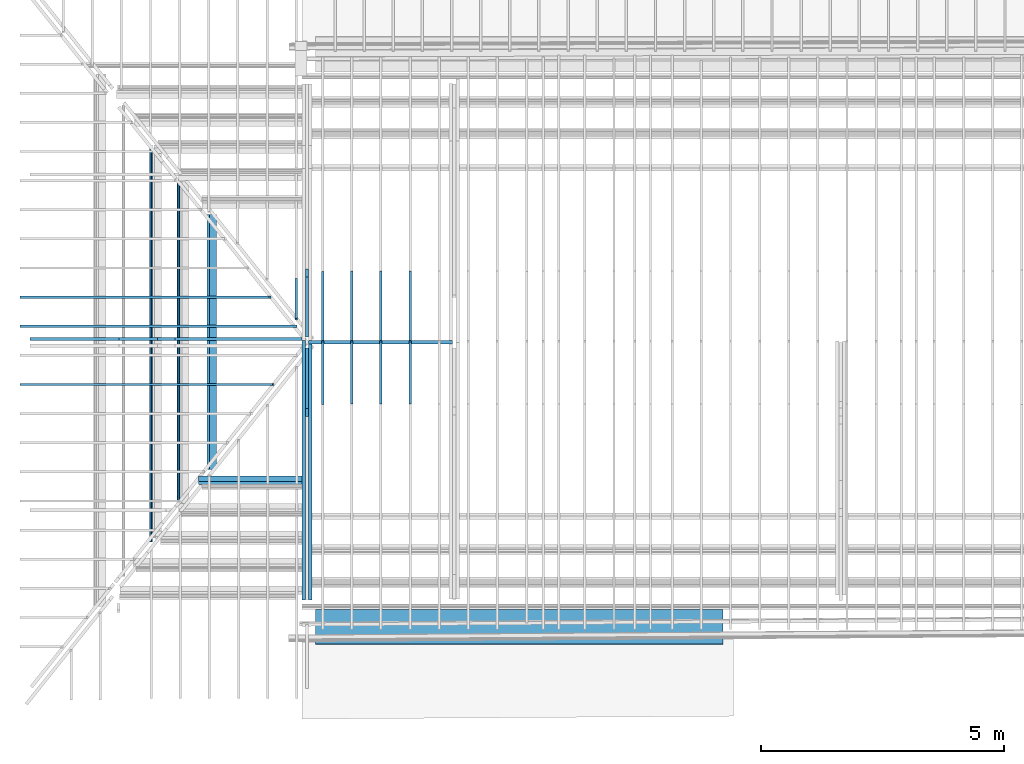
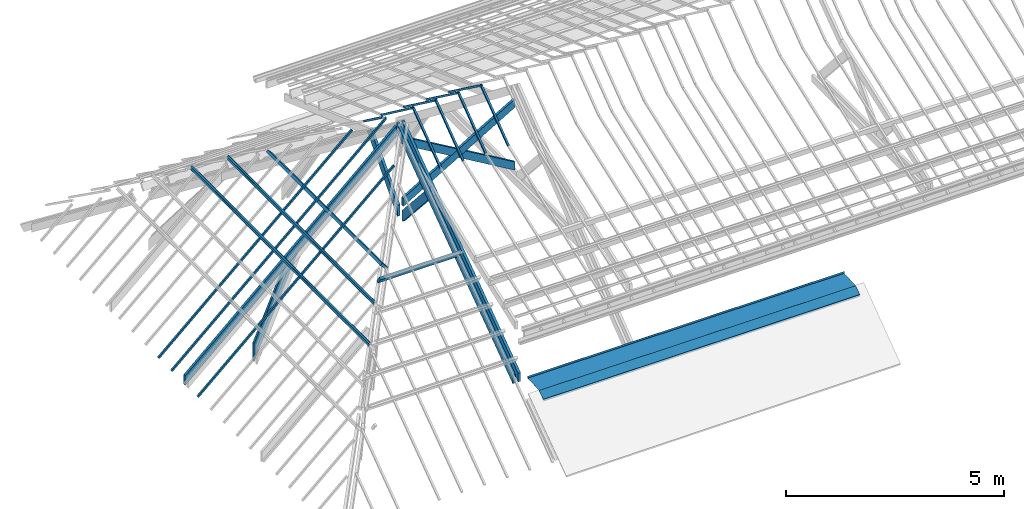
# One storey, part 3 of 18: 25 beams.
"""IFC2X3 building model written with IfcOpenShell, lengths in centimetres."""

import ifcopenshell
import ifcopenshell.guid

model = None  # the IFC model being written
_history = None  # IfcOwnerHistory: only IFC2X3 demands one
_inside = {}  # id of a spatial element -> (the spatial element, [elements in it])
_under = {}  # id of a project, library or spatial element -> (it, [spatial elements below it])
_declared = {}  # id of a project -> (the project, [libraries it declares])
_typed = {}  # id of a type object -> (the type object, [elements of that type])
_made_of = {}  # id of a material, layer set ... -> (it, [elements and type objects made of it])


def new_model(schema):
    """Start an empty IFC model of exactly this schema.

    Asked for "IFC4X3", IfcOpenShell would pick the latest addendum, in which some entities
    have other attributes; the version numbers below select the first issue.
    IFC2X3 requires an IfcOwnerHistory on every rooted entity: one is made here for all.
    """
    global model, _history
    if schema == "IFC4X3":
        model = ifcopenshell.file(schema_version=(4, 3, 0, 0))
    else:
        model = ifcopenshell.file(schema=schema)
    _inside.clear()
    _under.clear()
    _declared.clear()
    _typed.clear()
    _made_of.clear()
    _history = None
    if model.schema == "IFC2X3":
        org = make("IfcOrganization", Name="unknown")
        user = make(
            "IfcPersonAndOrganization",
            ThePerson=make("IfcPerson", FamilyName="unknown"),
            TheOrganization=org,
        )
        app = make(
            "IfcApplication",
            ApplicationDeveloper=org,
            Version="unknown",
            ApplicationFullName="unknown",
            ApplicationIdentifier="unknown",
        )
        _history = make(
            "IfcOwnerHistory",
            OwningUser=user,
            OwningApplication=app,
            ChangeAction="ADDED",
            CreationDate=0,
        )
    return model


def make(cls, **values):
    """One entity of the class cls with the attributes given. An attribute that is None is left unset."""
    return model.create_entity(
        cls, **{name: value for name, value in values.items() if value is not None}
    )


def entity(cls, *values):
    """Any entity or typed value of the class cls, its attributes in the order of the schema. None: left unset."""
    e = model.create_entity(cls)
    for i, value in enumerate(values):
        if value is not None:
            e[i] = value
    return e


def rooted(cls, **values):
    """An entity with a GlobalId (a new one), such as an element, a storey or a relation."""
    return make(cls, GlobalId=ifcopenshell.guid.new(), OwnerHistory=_history, **values)


def si_unit(unit_type, name, prefix=None):
    """IfcSIUnit, for example si_unit("LENGTHUNIT", "METRE", prefix="MILLI")."""
    return make("IfcSIUnit", UnitType=unit_type, Prefix=prefix, Name=name)


def converted_unit(unit_type, name, factor, base, dimensions=None, offset=None):
    """IfcConversionBasedUnit, such as the inch: factor (a typed value) times the base unit."""
    return make(
        "IfcConversionBasedUnit"
        if offset is None
        else "IfcConversionBasedUnitWithOffset",
        ConversionOffset=offset,
        Dimensions=None
        if dimensions is None
        else entity("IfcDimensionalExponents", *dimensions),
        UnitType=unit_type,
        Name=name,
        ConversionFactor=make(
            "IfcMeasureWithUnit", ValueComponent=factor, UnitComponent=base
        ),
    )


def assignment(units):
    """IfcUnitAssignment: the units of a project."""
    return None if units is None else make("IfcUnitAssignment", Units=units)


def point(xyz):
    """IfcCartesianPoint."""
    return None if xyz is None else make("IfcCartesianPoint", Coordinates=xyz)


def direction(xyz):
    """IfcDirection."""
    return None if xyz is None else make("IfcDirection", DirectionRatios=xyz)


def frame(location, z_axis=None, x_axis=None):
    """IfcAxis2Placement3D, a coordinate frame: its origin and axes. An axis left out is left unset."""
    return make(
        "IfcAxis2Placement3D",
        Location=point(location),
        Axis=direction(z_axis),
        RefDirection=direction(x_axis),
    )


def frame_2d(location, x_axis=None):
    """IfcAxis2Placement2D, a coordinate frame in the plane: its origin and x axis."""
    return make(
        "IfcAxis2Placement2D", Location=point(location), RefDirection=direction(x_axis)
    )


def origin():
    """The frame at (0, 0, 0) with its axes left unset."""
    return frame((0.0, 0.0, 0.0))


def origin_2d_with_axis():
    """The frame at (0, 0) in the plane with the x axis (1, 0) written out."""
    return frame_2d((0.0, 0.0), x_axis=(1.0, 0.0))


def place(relative_to, where):
    """IfcLocalPlacement: puts the frame where relative to a parent placement (None: the world)."""
    return make(
        "IfcLocalPlacement", PlacementRelTo=relative_to, RelativePlacement=where
    )


def context(
    kind, dimensions, precision=None, world=None, true_north=None, identifier=None
):
    """IfcGeometricRepresentationContext, for example the 3D "Model" context."""
    return make(
        "IfcGeometricRepresentationContext",
        ContextIdentifier=identifier,
        ContextType=kind,
        CoordinateSpaceDimension=dimensions,
        Precision=precision,
        WorldCoordinateSystem=world,
        TrueNorth=true_north,
    )


def subcontext(parent, identifier, kind, view, scale=None):
    """IfcGeometricRepresentationSubContext, for example "Body" below "Model"."""
    return make(
        "IfcGeometricRepresentationSubContext",
        ContextIdentifier=identifier,
        ContextType=kind,
        ParentContext=parent,
        TargetScale=scale,
        TargetView=view,
    )


def project(units=None, contexts=None):
    """IfcProject with its units and contexts."""
    return rooted(
        "IfcProject",
        Name="project",
        RepresentationContexts=contexts,
        UnitsInContext=assignment(units),
    )


def spatial(cls, under=None, at=None, **own):
    """A site, building, storey or space (cls), placed at a placement, below another one or the project."""
    s = rooted(cls, ObjectPlacement=at, **own)
    if under is not None:
        _under.setdefault(under.id(), (under, []))[1].append(s)
    return s


def polyline(points):
    """IfcPolyline through the points."""
    return make("IfcPolyline", Points=[point(p) for p in points])


def circle_curve(where, radius):
    """IfcCircle in the frame where."""
    return make("IfcCircle", Position=where, Radius=radius)


def parameter(value):
    """IfcParameterValue: where a trimmed curve begins or ends, as a parameter of its basis curve."""
    return model.create_entity("IfcParameterValue", value)


def trimmed(basis, trim1, trim2, sense, master):
    """IfcTrimmedCurve: the piece of a basis curve between two trims."""
    return make(
        "IfcTrimmedCurve",
        BasisCurve=basis,
        Trim1=trim1,
        Trim2=trim2,
        SenseAgreement=sense,
        MasterRepresentation=master,
    )


def segment(curve, same_sense, transition):
    """IfcCompositeCurveSegment."""
    return make(
        "IfcCompositeCurveSegment",
        Transition=transition,
        SameSense=same_sense,
        ParentCurve=curve,
    )


def composite_curve(segments, self_intersect=None):
    """IfcCompositeCurve: segments joined end to end."""
    return make("IfcCompositeCurve", Segments=segments, SelfIntersect=self_intersect)


def profile(cls, at=None, kind="AREA", **sizes):
    """A parametric profile (cls). Its sizes go by their IFC names, for example OverallWidth=200.0."""
    return make(cls, ProfileType=kind, Position=at, **sizes)


def rectangle(**sizes):
    """IfcRectangleProfileDef."""
    return profile("IfcRectangleProfileDef", **sizes)


def outline(outer, holes=None, kind="AREA"):
    """IfcArbitraryClosedProfileDef: a profile drawn as a closed curve; with holes, ...WithVoids."""
    if holes is None:
        return make("IfcArbitraryClosedProfileDef", ProfileType=kind, OuterCurve=outer)
    return make(
        "IfcArbitraryProfileDefWithVoids",
        ProfileType=kind,
        OuterCurve=outer,
        InnerCurves=holes,
    )


def extrude(swept, where, along, depth):
    """IfcExtrudedAreaSolid: the profile swept, set in the frame where, extruded along a direction by depth."""
    return make(
        "IfcExtrudedAreaSolid",
        SweptArea=swept,
        Position=where,
        ExtrudedDirection=direction(along),
        Depth=depth,
    )


def clip(a, b, op="DIFFERENCE"):
    """IfcBooleanClippingResult: the solid a cut by the half space b."""
    return make(
        "IfcBooleanClippingResult", Operator=op, FirstOperand=a, SecondOperand=b
    )


def halfspace(plane, agree):
    """IfcHalfSpaceSolid: all space on one side of the plane z = 0 of the frame plane."""
    return make(
        "IfcHalfSpaceSolid",
        BaseSurface=make("IfcPlane", Position=plane),
        AgreementFlag=agree,
    )


def bounded_halfspace(plane, agree, where, boundary):
    """IfcPolygonalBoundedHalfSpace: a half space limited to a polygon's prism."""
    return make(
        "IfcPolygonalBoundedHalfSpace",
        BaseSurface=make("IfcPlane", Position=plane),
        AgreementFlag=agree,
        Position=where,
        PolygonalBoundary=boundary,
    )


def shape(context_of_items, identifier, shape_type, items):
    """IfcShapeRepresentation: the items that make up one representation, for example the "Body"."""
    return make(
        "IfcShapeRepresentation",
        ContextOfItems=context_of_items,
        RepresentationIdentifier=identifier,
        RepresentationType=shape_type,
        Items=items,
    )


def material(Name=None, Category=None):
    """IfcMaterial."""
    return make("IfcMaterial", Name=Name, Category=Category)


def made_of(thing, what):
    """Note that an element or type object is made of a material, layer set ...; save() writes the relation."""
    if what is not None:
        _made_of.setdefault(what.id(), (what, []))[1].append(thing)
    return thing


def type_object(cls, material=None, **own):
    """A type object (cls), such as IfcWallType, which elements share."""
    return made_of(rooted(cls, **own), material)


def element(
    cls,
    number,
    at=None,
    inside=None,
    cuts=None,
    type_object=None,
    material=None,
    context=None,
    identifier="Body",
    shape_type=None,
    held_by="IfcProductDefinitionShape",
    body=None,
    shapes=None,
    **own,
):
    """One element of the class cls, such as IfcWall. Its Tag is "e" and its number.

    at: its placement. inside: the storey or other place that contains it. cuts: it is an
    opening in that element (IfcRelVoidsElement). A single representation is given by context,
    identifier, shape_type and body (its items); several are given by shapes. held_by: the class
    of the entity that holds the representations. save() writes the other relations.
    """
    e = rooted(cls, Tag="e%d" % number, ObjectPlacement=at, **own)
    if body is not None:
        shapes = [shape(context, identifier, shape_type, body)]
    if shapes is not None:
        e.Representation = make(held_by, Representations=shapes)
    if inside is not None:
        _inside.setdefault(inside.id(), (inside, []))[1].append(e)
    if cuts is not None:
        rooted(
            "IfcRelVoidsElement", RelatingBuildingElement=cuts, RelatedOpeningElement=e
        )
    if type_object is not None:
        _typed.setdefault(type_object.id(), (type_object, []))[1].append(e)
    return made_of(e, material)


def aggregate(whole, parts):
    """IfcRelAggregates: a whole, such as a stair, and the parts it consists of."""
    return rooted("IfcRelAggregates", RelatingObject=whole, RelatedObjects=parts)


def save(model, path):
    """Write the relations noted so far, then the file.

    IfcRelAggregates (storeys below a building ...), IfcRelContainedInSpatialStructure (elements
    in a storey), IfcRelDefinesByType, IfcRelAssociatesMaterial and IfcRelDeclares: one each for
    every whole, place, type object, material and project.
    """
    for whole, parts in _under.values():
        aggregate(whole, parts)
    for where, things in _inside.values():
        rooted(
            "IfcRelContainedInSpatialStructure",
            RelatedElements=things,
            RelatingStructure=where,
        )
    for kind, things in _typed.values():
        rooted("IfcRelDefinesByType", RelatedObjects=things, RelatingType=kind)
    for what, things in _made_of.values():
        rooted("IfcRelAssociatesMaterial", RelatedObjects=things, RelatingMaterial=what)
    for by, libraries in _declared.values():
        rooted("IfcRelDeclares", RelatingContext=by, RelatedDefinitions=libraries)
    model.write(path)


model = new_model("IFC2X3")

# Units and contexts
model_context = context("Model", 3, precision=0.001, world=frame((0.0, 0.0, 13090.0)), true_north=direction((6.123233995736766e-17, 1.0)))
body_context = subcontext(model_context, "Body", "Model", "MODEL_VIEW")
ifc_project = project(units=[si_unit("LENGTHUNIT", "METRE", prefix="CENTI"), si_unit("AREAUNIT", "SQUARE_METRE"), si_unit("VOLUMEUNIT", "CUBIC_METRE"), converted_unit("PLANEANGLEUNIT", "DEGREE", entity("IfcPlaneAngleMeasure", 0.017453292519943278), si_unit("PLANEANGLEUNIT", "RADIAN"), dimensions=[0, 0, 0, 0, 0, 0, 0])], contexts=[model_context])

# Site, building, storey
site_placement = place(None, origin())
site = spatial("IfcSite", under=ifc_project, at=site_placement, Name="Default", CompositionType="ELEMENT")
building_placement = place(site_placement, origin())
building = spatial("IfcBuilding", under=site, at=building_placement, Name="e 39 logements et 22 maisons relais", CompositionType="ELEMENT")
storey_placement = place(building_placement, frame((0.0, 0.0, 610.0)))
storey = spatial("IfcBuildingStorey", under=building, at=storey_placement, Name="R+2", CompositionType="ELEMENT", Elevation=609.9999999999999)

# Beams
ifc_material_1 = material(Name="Bois - Bois de construction de dimensions courantes")
beam_type_1 = type_object("IfcBeamType", Name="Poutre - Bois de construction de dimensions courantes:70 220", PredefinedType="BEAM")
beam_1_placement = place(storey_placement, frame((-912.5294746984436, 242.0051083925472, 292.3300309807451), z_axis=(1.0, 0.0, 0.0), x_axis=(0.0, -0.6653624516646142, -0.7465204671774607)))
element("IfcBeam", 1, at=beam_1_placement, inside=storey, type_object=beam_type_1, material=ifc_material_1, Name="Poutre - Bois de construction de dimensions courantes:70 220", ObjectType="Poutre - Bois de construction de dimensions courantes:70 220", context=body_context, shape_type="Clipping", body=[
    clip(clip(extrude(rectangle(XDim=21.999999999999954, YDim=7.00000000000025, at=frame_2d((-1.6253665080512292e-13, 7.105427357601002e-14), x_axis=(0.0, 1.0))), frame((195.8808851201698, 11.0, 0.0), z_axis=(1.0, 0.0, 0.0), x_axis=(0.0, 0.0, -1.0)), (0.0, 0.0, 1.0), 208.96032724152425), bounded_halfspace(frame((396.32457298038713, 30.269066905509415, 409.3014635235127), z_axis=(0.7465204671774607, 0.6653624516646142, 0.0), x_axis=(0.0, 0.0, -1.0)), False, frame((195.8808851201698, 11.0, 0.0), z_axis=(1.0, 0.0, 0.0), x_axis=(0.0, 0.0, -1.0)), polyline([(-3.5000000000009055, 9.71360492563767), (3.4999999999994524, 9.713604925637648), (3.499999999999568, 11.0), (-3.50000000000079, 11.0), (-3.5000000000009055, 9.71360492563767)]))), bounded_halfspace(frame((404.84121236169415, 20.713604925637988, 409.3014635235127), z_axis=(0.665362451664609, -0.7465204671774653, 0.0), x_axis=(0.0, 0.0, -1.0)), False, frame((195.8808851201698, 11.0, 0.0), z_axis=(1.0, 0.0, 0.0), x_axis=(0.0, 0.0, -1.0)), polyline([(3.4999999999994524, 9.713604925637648), (-3.500000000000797, 9.71360492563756), (-3.5000000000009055, -11.0), (3.4999999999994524, -11.0), (3.4999999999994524, 9.713604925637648)]))),
])
beam_2_placement = place(storey_placement, frame((-912.5294746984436, -287.80091473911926, 292.3300309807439), z_axis=(1.0, 0.0, 0.0), x_axis=(0.0, 0.6653624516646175, -0.7465204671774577)))
element("IfcBeam", 2, at=beam_2_placement, inside=storey, type_object=beam_type_1, material=ifc_material_1, Name="Poutre - Bois de construction de dimensions courantes:70 220", ObjectType="Poutre - Bois de construction de dimensions courantes:70 220", context=body_context, shape_type="Clipping", body=[
    clip(clip(extrude(rectangle(XDim=22.000000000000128, YDim=7.000000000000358, at=frame_2d((-5.417888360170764e-14, 2.042810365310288e-14), x_axis=(0.0, 1.0))), frame((193.10039456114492, -11.0, 0.0), z_axis=(1.0, 0.0, 0.0), x_axis=(0.0, 0.0, -1.0)), (0.0, 0.0, 1.0), 211.74081780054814), bounded_halfspace(frame((394.72770309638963, -32.06071602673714, -409.30146352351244), z_axis=(0.7465204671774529, -0.6653624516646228, 0.0), x_axis=(0.0, 0.0, 1.0)), False, frame((193.10039456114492, -11.0, 0.0), z_axis=(1.0, 0.0, 0.0), x_axis=(0.0, 0.0, -1.0)), polyline([(3.5000000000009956, -9.71360492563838), (-3.499999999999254, -9.713604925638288), (-3.4999999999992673, -11.0), (3.5000000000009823, -11.0), (3.5000000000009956, -9.71360492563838)]))), bounded_halfspace(frame((404.84121236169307, -20.71360492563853, -409.30146352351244), z_axis=(0.6653624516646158, 0.7465204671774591, 0.0), x_axis=(0.0, 0.0, 1.0)), False, frame((193.10039456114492, -11.0, 0.0), z_axis=(1.0, 0.0, 0.0), x_axis=(0.0, 0.0, -1.0)), polyline([(-3.499999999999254, -9.713604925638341), (3.5000000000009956, -9.713604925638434), (3.5000000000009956, 11.0), (-3.499999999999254, 11.0), (-3.499999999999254, -9.713604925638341)]))),
])
beam_3_placement = place(storey_placement, frame((-1116.2768817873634, 514.0076677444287, 77.74802805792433), z_axis=(0.0, 0.0, 1.0), x_axis=(0.0, -1.0, 0.0)))
element("IfcBeam", 3, at=beam_3_placement, inside=storey, type_object=beam_type_1, material=ifc_material_1, Name="Poutre - Bois de construction de dimensions courantes:70 220", ObjectType="Poutre - Bois de construction de dimensions courantes:70 220", context=body_context, shape_type="SweptSolid", body=[
    extrude(rectangle(XDim=21.999999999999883, YDim=7.00000000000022, at=frame_2d((7.283063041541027e-14, 8.038014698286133e-14), x_axis=(1.0, 0.0))), frame((273.83191012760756, 7.360436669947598, -8.174593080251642), z_axis=(1.0, 0.0, 0.0), x_axis=(0.0, -0.6691306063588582, 0.7431448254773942)), (0.0, 0.0, 1.0), 524.8274133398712),
])
beam_type_2 = type_object("IfcBeamType", Name="Poutre - Bois de construction de dimensions courantes:70 200", PredefinedType="BEAM")
beam_4_placement = place(storey_placement, frame((-905.5294746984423, -498.6329004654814, -69.63355283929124), z_axis=(0.0, -0.5838339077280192, 0.8118731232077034), x_axis=(0.0, 0.8118731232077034, 0.5838339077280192)))
element("IfcBeam", 4, at=beam_4_placement, inside=storey, type_object=beam_type_2, material=ifc_material_1, Name="Poutre - Bois de construction de dimensions courantes:70 200", ObjectType="Poutre - Bois de construction de dimensions courantes:70 200", context=body_context, shape_type="Clipping", body=[
    clip(clip(extrude(rectangle(XDim=20.000000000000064, YDim=7.000000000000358, at=frame_2d((-5.417888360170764e-14, -7.549516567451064e-14), x_axis=(0.0, 1.0))), frame((-98.03423871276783, 0.0, -33.0), z_axis=(1.0, 0.0, 0.0), x_axis=(0.0, 1.0, 0.0)), (0.0, 0.0, 1.0), 672.0507535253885), halfspace(frame((588.5344963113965, -688.8032162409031, -2.965579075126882), z_axis=(0.8097443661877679, 0.0, -0.5867828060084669), x_axis=(0.0, 1.0, 0.0)), False)), halfspace(frame((-106.50059654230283, -688.8032162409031, -54.40292680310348), z_axis=(-0.8118731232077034, 0.0, 0.5838339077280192), x_axis=(0.0, 1.0, 0.0)), False)),
])
beam_5_placement = place(storey_placement, frame((-919.5294746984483, -497.90634834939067, -70.34279449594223), z_axis=(0.0, -0.583833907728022, 0.8118731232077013), x_axis=(0.0, 0.8118731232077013, 0.583833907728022)))
element("IfcBeam", 5, at=beam_5_placement, inside=storey, type_object=beam_type_2, material=ifc_material_1, Name="Poutre - Bois de construction de dimensions courantes:70 200", ObjectType="Poutre - Bois de construction de dimensions courantes:70 200", context=body_context, shape_type="Clipping", body=[
    clip(clip(extrude(rectangle(XDim=20.00000000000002, YDim=7.000000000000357, at=frame_2d((-5.417888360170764e-14, -2.220446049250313e-14), x_axis=(0.0, 1.0))), frame((-98.37063914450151, 0.0, -32.0), z_axis=(1.0, 0.0, 0.0), x_axis=(0.0, 1.0, 0.0)), (0.0, 0.0, 1.0), 672.111365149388), halfspace(frame((588.2587075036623, -688.8638278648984, -1.9655790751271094), z_axis=(0.8097443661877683, 0.0, -0.5867828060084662), x_axis=(0.0, 1.0, 0.0)), False)), halfspace(frame((-103.5747503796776, -688.8638278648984, -49.08982672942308), z_axis=(-0.8118731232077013, 0.0, 0.583833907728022), x_axis=(0.0, 1.0, 0.0)), False)),
])
beam_6_placement = place(storey_placement, frame((-570.9302602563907, -312.2085922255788, 61.60788901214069), z_axis=(0.0, 0.0, 1.0), x_axis=(-1.0, 0.0, 0.0)))
element("IfcBeam", 6, at=beam_6_placement, inside=storey, type_object=beam_type_2, material=ifc_material_1, Name="Poutre - Bois de construction de dimensions courantes:70 200", ObjectType="Poutre - Bois de construction de dimensions courantes:70 200", context=body_context, shape_type="SweptSolid", body=[
    extrude(rectangle(XDim=19.999999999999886, YDim=7.000000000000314, at=frame_2d((-3.108624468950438e-14, 4.529709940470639e-14), x_axis=(0.0, 1.0))), frame((352.0992144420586, -5.73576436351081, -8.191520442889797), z_axis=(1.0, 0.0, 0.0), x_axis=(0.0, -0.8191520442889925, 0.5735764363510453)), (0.0, 0.0, 1.0), 213.169312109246),
])
beam_7_placement = place(storey_placement, frame((-1378.752018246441, -15.897903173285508, -63.49404256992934), z_axis=(-0.6686368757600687, 0.0, 0.7435890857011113), x_axis=(0.7435890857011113, 0.0, 0.6686368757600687)))
element("IfcBeam", 7, at=beam_7_placement, inside=storey, type_object=beam_type_2, material=ifc_material_1, Name="Poutre - Bois de construction de dimensions courantes:70 200", ObjectType="Poutre - Bois de construction de dimensions courantes:70 200", context=body_context, shape_type="Clipping", body=[
    clip(clip(extrude(rectangle(XDim=20.00000000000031, YDim=7.0000000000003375, at=frame_2d((7.993605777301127e-14, 1.7763568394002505e-15), x_axis=(1.0, 0.0))), frame((-231.65183513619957, 0.0, -92.0), z_axis=(1.0, 0.0, 0.0), x_axis=(0.0, 0.0, -1.0)), (0.0, 0.0, 1.0), 770.7860524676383), halfspace(frame((-186.06070489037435, 813.2791105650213, -51.29823932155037), z_axis=(-0.7435890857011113, 0.0, 0.6686368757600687), x_axis=(0.0, -1.0, 0.0)), False)), halfspace(frame((507.02850038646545, 813.2791105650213, -117.70467255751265), z_axis=(0.7435890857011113, 0.0, -0.6686368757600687), x_axis=(0.0, -1.0, 0.0)), False)),
])
beam_8_placement = place(storey_placement, frame((-1342.9571952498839, -15.897903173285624, -134.54641095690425), z_axis=(0.9171693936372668, 0.0, -0.39849755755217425), x_axis=(0.39849755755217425, 0.0, 0.9171693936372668)))
element("IfcBeam", 8, at=beam_8_placement, inside=storey, type_object=beam_type_2, material=ifc_material_1, Name="Poutre - Bois de construction de dimensions courantes:70 200", ObjectType="Poutre - Bois de construction de dimensions courantes:70 200", context=body_context, shape_type="Clipping", body=[
    clip(clip(extrude(rectangle(XDim=20.00000000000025, YDim=7.000000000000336, at=frame_2d((-1.2079226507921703e-13, 2.4424906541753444e-15), x_axis=(1.0, 0.0))), frame((-127.3561721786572, 0.0, 92.0), z_axis=(1.0, 0.0, 0.0), x_axis=(0.0, 0.0, -1.0)), (0.0, 0.0, 1.0), 289.89812463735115), halfspace(frame((-161.32799510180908, 484.5295381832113, 116.76029243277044), z_axis=(-0.39849755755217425, 0.0, -0.9171693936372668), x_axis=(0.0, -1.0, 0.0)), False)), halfspace(frame((103.0455352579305, 484.5295381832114, 74.81846314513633), z_axis=(0.4155469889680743, 0.0, -0.9095717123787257), x_axis=(0.0, -1.0, 0.0)), False)),
])
beam_9_placement = place(storey_placement, frame((-722.687825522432, -22.897903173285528, 96.15934385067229), z_axis=(0.5071716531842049, 0.0, 0.8618450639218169), x_axis=(-0.8618450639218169, 0.0, 0.5071716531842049)))
element("IfcBeam", 9, at=beam_9_placement, inside=storey, type_object=beam_type_2, material=ifc_material_1, Name="Poutre - Bois de construction de dimensions courantes:70 200", ObjectType="Poutre - Bois de construction de dimensions courantes:70 200", context=body_context, shape_type="Clipping", body=[
    clip(clip(extrude(rectangle(XDim=19.99999999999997, YDim=7.000000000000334, at=frame_2d((-4.618527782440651e-14, 0.0), x_axis=(1.0, 0.0))), frame((-139.29335221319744, 0.0, -10.0), z_axis=(1.0, 0.0, 0.0), x_axis=(0.0, 0.0, -1.0)), (0.0, 0.0, 1.0), 355.5058212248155), halfspace(frame((221.41879985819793, -371.15285166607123, 8.847202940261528), z_axis=(0.8618450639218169, 0.0, -0.5071716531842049), x_axis=(0.0, 1.0, 0.0)), False)), halfspace(frame((-146.6605492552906, -371.1528516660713, -32.519198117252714), z_axis=(-0.8618450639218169, 0.0, 0.5071716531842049), x_axis=(0.0, 1.0, 0.0)), False)),
])
beam_10_placement = place(storey_placement, frame((-802.6236197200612, -22.89790317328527, 96.1593438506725), z_axis=(-0.5071716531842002, 0.0, 0.8618450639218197), x_axis=(0.8618450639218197, 0.0, 0.5071716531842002)))
element("IfcBeam", 10, at=beam_10_placement, inside=storey, type_object=beam_type_2, material=ifc_material_1, Name="Poutre - Bois de construction de dimensions courantes:70 200", ObjectType="Poutre - Bois de construction de dimensions courantes:70 200", context=body_context, shape_type="Clipping", body=[
    clip(clip(extrude(rectangle(XDim=20.000000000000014, YDim=7.0000000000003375, at=frame_2d((2.7533531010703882e-14, -1.7763568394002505e-15), x_axis=(1.0, 0.0))), frame((-135.23229745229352, 0.0, -10.0), z_axis=(1.0, 0.0, 0.0), x_axis=(0.0, 0.0, -1.0)), (0.0, 0.0, 1.0), 355.5058212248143), halfspace(frame((-143.6440915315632, -376.2248201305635, -34.294298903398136), z_axis=(-0.8618450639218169, 0.0, 0.5071716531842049), x_axis=(0.0, 1.0, 0.0)), False)), halfspace(frame((224.43525758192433, -376.2248201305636, 7.072102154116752), z_axis=(0.8618450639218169, 0.0, -0.5071716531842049), x_axis=(0.0, 1.0, 0.0)), False)),
])
ifc_material_2 = material(Name="neuf")
beam_type_3 = type_object("IfcBeamType", Name="panne z:panne z", PredefinedType="BEAM")
beam_11_placement = place(storey_placement, frame((-1246.575692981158, 514.0076677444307, -0.49472612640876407), z_axis=(0.0, 0.0, 1.0), x_axis=(0.0, -1.0, 0.0)))
element("IfcBeam", 11, at=beam_11_placement, inside=storey, type_object=beam_type_3, material=ifc_material_2, Name="panne z:panne z", ObjectType="panne z:panne z", context=body_context, shape_type="SweptSolid", body=[
    extrude(outline(composite_curve([segment(trimmed(circle_curve(frame_2d((4.600000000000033, 2.599999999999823), x_axis=(1.0, 0.0)), 0.3999999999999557), [parameter(0.0)], [parameter(90.00000000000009)], True, "PARAMETER"), True, "CONTINUOUS"), segment(polyline([(4.600000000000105, 3.0), (0.2999999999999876, 3.0)]), True, "CONTINUOUS"), segment(trimmed(circle_curve(frame_2d((0.3000000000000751, 2.5999999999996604), x_axis=(0.0, 1.0)), 0.4000000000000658), [parameter(0.0)], [parameter(89.99999999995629)], True, "PARAMETER"), True, "CONTINUOUS"), segment(polyline([(-0.09999999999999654, 2.599999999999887), (-0.10000000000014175, -2.6000000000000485)]), True, "CONTINUOUS"), segment(trimmed(circle_curve(frame_2d((-0.29999999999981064, -2.600000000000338), x_axis=(1.0, 0.0)), 0.19999999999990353), [parameter(269.9999999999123)], [parameter(0.0)], True, "PARAMETER"), False, "CONTINUOUS"), segment(polyline([(-0.299999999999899, -2.8000000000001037), (-4.600000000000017, -2.800000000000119)]), True, "CONTINUOUS"), segment(trimmed(circle_curve(frame_2d((-4.599999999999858, -2.6000000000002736), x_axis=(0.0, -1.0)), 0.20000000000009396), [parameter(270.0000000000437)], [parameter(0.0)], True, "PARAMETER"), False, "CONTINUOUS"), segment(polyline([(-4.79999999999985, -2.600000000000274), (-4.80000000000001, -1.0)]), True, "CONTINUOUS"), segment(polyline([(-4.799999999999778, -1.0), (-5.0, -1.0)]), True, "CONTINUOUS"), segment(polyline([(-5.0, -1.0), (-5.0, -2.600000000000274)]), True, "CONTINUOUS"), segment(trimmed(circle_curve(frame_2d((-4.5999999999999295, -2.600000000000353), x_axis=(-1.0, 0.0)), 0.3999999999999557), [parameter(0.0)], [parameter(90.00000000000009)], True, "PARAMETER"), True, "CONTINUOUS"), segment(polyline([(-4.599999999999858, -3.0), (-0.2999999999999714, -3.0)]), True, "CONTINUOUS"), segment(trimmed(circle_curve(frame_2d((-0.3000000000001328, -2.6000000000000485), x_axis=(0.0, -1.0)), 0.4000000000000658), [parameter(0.0)], [parameter(89.99999999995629)], True, "PARAMETER"), True, "CONTINUOUS"), segment(polyline([(0.10000000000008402, -2.6000000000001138), (0.09999999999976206, 2.5999999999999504)]), True, "CONTINUOUS"), segment(trimmed(circle_curve(frame_2d((0.29999999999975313, 2.5999999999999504), x_axis=(-1.0, 0.0)), 0.19999999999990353), [parameter(269.9999999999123)], [parameter(0.0)], True, "PARAMETER"), False, "CONTINUOUS"), segment(polyline([(0.2999999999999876, 2.799999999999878), (4.599999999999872, 2.7999999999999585)]), True, "CONTINUOUS"), segment(trimmed(circle_curve(frame_2d((4.599999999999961, 2.599999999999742), x_axis=(0.0, 1.0)), 0.20000000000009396), [parameter(270.0000000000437)], [parameter(0.0)], True, "PARAMETER"), False, "CONTINUOUS"), segment(polyline([(4.8000000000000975, 2.599999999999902), (4.800000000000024, 1.0)]), True, "CONTINUOUS"), segment(polyline([(4.800000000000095, 1.0), (5.0, 1.0)]), True, "CONTINUOUS"), segment(polyline([(5.0, 1.0), (5.0, 2.600000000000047)]), True, "CONTINUOUS")], self_intersect=False)), frame((130.7813168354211, 12.50098828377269, -13.883754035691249), z_axis=(1.0, 0.0, 0.0), x_axis=(0.0, 0.743144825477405, 0.6691306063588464)), (0.0, 0.0, 1.0), 816.925856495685),
])
beam_12_placement = place(storey_placement, frame((-1190.0169453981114, 514.0076677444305, 50.18528605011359), z_axis=(0.0, 0.0, 1.0), x_axis=(0.0, -1.0, 0.0)))
element("IfcBeam", 12, at=beam_12_placement, inside=storey, type_object=beam_type_3, material=ifc_material_2, Name="panne z:panne z", ObjectType="panne z:panne z", context=body_context, shape_type="SweptSolid", body=[
    extrude(outline(composite_curve([segment(trimmed(circle_curve(frame_2d((4.599999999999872, 2.5999999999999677), x_axis=(1.0, 0.0)), 0.3999999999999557), [parameter(0.0)], [parameter(90.00000000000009)], True, "PARAMETER"), True, "CONTINUOUS"), segment(polyline([(4.600000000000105, 3.0), (0.2999999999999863, 3.0)]), True, "CONTINUOUS"), segment(trimmed(circle_curve(frame_2d((0.2999999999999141, 2.599999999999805), x_axis=(0.0, 1.0)), 0.4000000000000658), [parameter(0.0)], [parameter(89.99999999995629)], True, "PARAMETER"), True, "CONTINUOUS"), segment(polyline([(-0.09999999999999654, 2.599999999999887), (-0.09999999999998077, -2.6000000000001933)]), True, "CONTINUOUS"), segment(trimmed(circle_curve(frame_2d((-0.29999999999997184, -2.6000000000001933), x_axis=(1.0, 0.0)), 0.19999999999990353), [parameter(269.9999999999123)], [parameter(0.0)], True, "PARAMETER"), False, "CONTINUOUS"), segment(polyline([(-0.299999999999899, -2.8000000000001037), (-4.600000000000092, -2.8000000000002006)]), True, "CONTINUOUS"), segment(trimmed(circle_curve(frame_2d((-4.600000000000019, -2.6000000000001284), x_axis=(0.0, -1.0)), 0.20000000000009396), [parameter(270.0000000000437)], [parameter(0.0)], True, "PARAMETER"), False, "CONTINUOUS"), segment(polyline([(-4.79999999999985, -2.600000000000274), (-4.800000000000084, -1.0)]), True, "CONTINUOUS"), segment(polyline([(-4.799999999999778, -1.0), (-5.0, -1.0)]), True, "CONTINUOUS"), segment(polyline([(-5.0, -1.0), (-5.0, -2.600000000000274)]), True, "CONTINUOUS"), segment(trimmed(circle_curve(frame_2d((-4.60000000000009, -2.6000000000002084), x_axis=(-1.0, 0.0)), 0.3999999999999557), [parameter(0.0)], [parameter(90.00000000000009)], True, "PARAMETER"), True, "CONTINUOUS"), segment(polyline([(-4.599999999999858, -3.0), (-0.2999999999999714, -3.0)]), True, "CONTINUOUS"), segment(trimmed(circle_curve(frame_2d((-0.3000000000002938, -2.5999999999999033), x_axis=(0.0, -1.0)), 0.4000000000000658), [parameter(0.0)], [parameter(89.99999999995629)], True, "PARAMETER"), True, "CONTINUOUS"), segment(polyline([(0.10000000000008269, -2.6000000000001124), (0.09999999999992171, 2.5999999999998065)]), True, "CONTINUOUS"), segment(trimmed(circle_curve(frame_2d((0.2999999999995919, 2.6000000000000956), x_axis=(-1.0, 0.0)), 0.19999999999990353), [parameter(269.9999999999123)], [parameter(0.0)], True, "PARAMETER"), False, "CONTINUOUS"), segment(polyline([(0.2999999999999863, 2.7999999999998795), (4.599999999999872, 2.7999999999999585)]), True, "CONTINUOUS"), segment(trimmed(circle_curve(frame_2d((4.5999999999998, 2.599999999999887), x_axis=(0.0, 1.0)), 0.20000000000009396), [parameter(270.0000000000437)], [parameter(0.0)], True, "PARAMETER"), False, "CONTINUOUS"), segment(polyline([(4.800000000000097, 2.5999999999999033), (4.800000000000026, 1.0)]), True, "CONTINUOUS"), segment(polyline([(4.800000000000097, 1.0), (5.0, 1.0)]), True, "CONTINUOUS"), segment(polyline([(5.0, 1.0), (5.0, 2.600000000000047)]), True, "CONTINUOUS")], self_intersect=False)), frame((199.4331729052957, 12.500988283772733, -13.883754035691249), z_axis=(1.0, 0.0, 0.0), x_axis=(0.0, 0.743144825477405, 0.6691306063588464)), (0.0, 0.0, 1.0), 671.980688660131),
])
beam_type_4 = type_object("IfcBeamType", Name="Poutre - Bois de construction de dimensions courantes:50 50", PredefinedType="BEAM")
beam_13_placement = place(storey_placement, frame((-934.8819705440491, 464.9358214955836, -5.3124107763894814), z_axis=(0.0, 0.592864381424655, 0.8053023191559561), x_axis=(0.0, -0.8053023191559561, 0.592864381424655)))
element("IfcBeam", 13, at=beam_13_placement, inside=storey, type_object=beam_type_4, material=ifc_material_1, Name="Poutre - Bois de construction de dimensions courantes:50 50", ObjectType="Poutre - Bois de construction de dimensions courantes:50 50", context=body_context, shape_type="SweptSolid", body=[
    extrude(rectangle(XDim=4.9999999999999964, YDim=5.000000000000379, at=origin_2d_with_axis()), frame((396.12085509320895, 0.0, -64.50000000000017), z_axis=(1.0, 0.0, 0.0), x_axis=(0.0, 0.0, -1.0)), (0.0, 0.0, 1.0), 103.32349346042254),
])
beam_14_placement = place(storey_placement, frame((-700.3172162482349, 465.83221651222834, -4.125801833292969), z_axis=(0.0, 0.5923999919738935, 0.8056439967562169), x_axis=(0.0, -0.8056439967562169, 0.5923999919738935)))
element("IfcBeam", 14, at=beam_14_placement, inside=storey, type_object=beam_type_4, material=ifc_material_1, Name="Poutre - Bois de construction de dimensions courantes:50 50", ObjectType="Poutre - Bois de construction de dimensions courantes:50 50", context=body_context, shape_type="SweptSolid", body=[
    extrude(rectangle(XDim=4.99999999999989, YDim=5.000000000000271, at=frame_2d((8.215650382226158e-15, 1.0835776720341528e-13), x_axis=(1.0, 0.0))), frame((378.26681222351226, 0.0, -64.50000000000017), z_axis=(1.0, 0.0, 0.0), x_axis=(0.0, 0.0, -1.0)), (0.0, 0.0, 1.0), 183.04182029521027),
])
beam_15_placement = place(storey_placement, frame((-700.3172162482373, -508.30595625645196, -9.594498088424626), z_axis=(0.0, -0.6008803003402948, 0.7993390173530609), x_axis=(0.0, 0.7993390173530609, 0.6008803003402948)))
element("IfcBeam", 15, at=beam_15_placement, inside=storey, type_object=beam_type_4, material=ifc_material_1, Name="Poutre - Bois de construction de dimensions courantes:50 50", ObjectType="Poutre - Bois de construction de dimensions courantes:50 50", context=body_context, shape_type="SweptSolid", body=[
    extrude(rectangle(XDim=4.999999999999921, YDim=5.000000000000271, at=frame_2d((0.0, 5.417888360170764e-14), x_axis=(1.0, 0.0))), frame((402.3128471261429, 0.0, -64.49999999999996), z_axis=(1.0, 0.0, 0.0), x_axis=(0.0, 0.0, -1.0)), (0.0, 0.0, 1.0), 159.4441778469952),
])
beam_16_placement = place(storey_placement, frame((-760.3172162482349, 465.83221651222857, -4.125801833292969), z_axis=(0.0, 0.5923999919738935, 0.8056439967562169), x_axis=(0.0, -0.8056439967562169, 0.5923999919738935)))
element("IfcBeam", 16, at=beam_16_placement, inside=storey, type_object=beam_type_4, material=ifc_material_1, Name="Poutre - Bois de construction de dimensions courantes:50 50", ObjectType="Poutre - Bois de construction de dimensions courantes:50 50", context=body_context, shape_type="SweptSolid", body=[
    extrude(rectangle(XDim=4.99999999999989, YDim=5.000000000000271, at=frame_2d((8.215650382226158e-15, 0.0), x_axis=(1.0, 0.0))), frame((378.26681222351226, 0.0, -64.50000000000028), z_axis=(1.0, 0.0, 0.0), x_axis=(0.0, 0.0, -1.0)), (0.0, 0.0, 1.0), 183.04182029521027),
])
beam_17_placement = place(storey_placement, frame((-760.3172162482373, -508.30595625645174, -9.594498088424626), z_axis=(0.0, -0.6008803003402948, 0.7993390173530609), x_axis=(0.0, 0.7993390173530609, 0.6008803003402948)))
element("IfcBeam", 17, at=beam_17_placement, inside=storey, type_object=beam_type_4, material=ifc_material_1, Name="Poutre - Bois de construction de dimensions courantes:50 50", ObjectType="Poutre - Bois de construction de dimensions courantes:50 50", context=body_context, shape_type="SweptSolid", body=[
    extrude(rectangle(XDim=4.999999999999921, YDim=5.000000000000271, at=frame_2d((0.0, -5.417888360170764e-14), x_axis=(1.0, 0.0))), frame((402.3128471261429, 0.0, -64.50000000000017), z_axis=(1.0, 0.0, 0.0), x_axis=(0.0, 0.0, -1.0)), (0.0, 0.0, 1.0), 159.4441778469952),
])
beam_18_placement = place(storey_placement, frame((-820.3172162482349, 465.8322165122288, -4.125801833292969), z_axis=(0.0, 0.5923999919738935, 0.8056439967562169), x_axis=(0.0, -0.8056439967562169, 0.5923999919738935)))
element("IfcBeam", 18, at=beam_18_placement, inside=storey, type_object=beam_type_4, material=ifc_material_1, Name="Poutre - Bois de construction de dimensions courantes:50 50", ObjectType="Poutre - Bois de construction de dimensions courantes:50 50", context=body_context, shape_type="SweptSolid", body=[
    extrude(rectangle(XDim=4.99999999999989, YDim=5.000000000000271, at=frame_2d((8.215650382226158e-15, 0.0), x_axis=(1.0, 0.0))), frame((378.26681222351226, 0.0, -64.50000000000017), z_axis=(1.0, 0.0, 0.0), x_axis=(0.0, 0.0, -1.0)), (0.0, 0.0, 1.0), 183.04182029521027),
])
beam_19_placement = place(storey_placement, frame((-820.3172162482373, -508.3059562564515, -9.594498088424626), z_axis=(0.0, -0.6008803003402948, 0.7993390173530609), x_axis=(0.0, 0.7993390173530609, 0.6008803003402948)))
element("IfcBeam", 19, at=beam_19_placement, inside=storey, type_object=beam_type_4, material=ifc_material_1, Name="Poutre - Bois de construction de dimensions courantes:50 50", ObjectType="Poutre - Bois de construction de dimensions courantes:50 50", context=body_context, shape_type="SweptSolid", body=[
    extrude(rectangle(XDim=4.999999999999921, YDim=5.000000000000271, at=frame_2d((0.0, 5.417888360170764e-14), x_axis=(1.0, 0.0))), frame((402.31284712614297, 0.0, -64.50000000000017), z_axis=(1.0, 0.0, 0.0), x_axis=(0.0, 0.0, -1.0)), (0.0, 0.0, 1.0), 159.4441778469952),
])
beam_20_placement = place(storey_placement, frame((-880.3172162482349, 464.07160379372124, -7.148621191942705), z_axis=(0.0, 0.5973659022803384, 0.8019688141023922), x_axis=(0.0, -0.8019688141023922, 0.5973659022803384)))
element("IfcBeam", 20, at=beam_20_placement, inside=storey, type_object=beam_type_4, material=ifc_material_1, Name="Poutre - Bois de construction de dimensions courantes:50 50", ObjectType="Poutre - Bois de construction de dimensions courantes:50 50", context=body_context, shape_type="SweptSolid", body=[
    extrude(rectangle(XDim=5.0000000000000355, YDim=5.000000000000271, at=frame_2d((-6.350475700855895e-14, 0.0), x_axis=(1.0, 0.0))), frame((378.26681222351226, 0.0, -64.49999999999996), z_axis=(1.0, 0.0, 0.0), x_axis=(0.0, 0.0, -1.0)), (0.0, 0.0, 1.0), 183.0418202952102),
])
beam_21_placement = place(storey_placement, frame((-880.3172162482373, -511.0662629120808, -4.886859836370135), z_axis=(0.0, -0.5931656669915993, 0.8050804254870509), x_axis=(0.0, 0.8050804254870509, 0.5931656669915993)))
element("IfcBeam", 21, at=beam_21_placement, inside=storey, type_object=beam_type_4, material=ifc_material_1, Name="Poutre - Bois de construction de dimensions courantes:50 50", ObjectType="Poutre - Bois de construction de dimensions courantes:50 50", context=body_context, shape_type="SweptSolid", body=[
    extrude(rectangle(XDim=5.00000000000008, YDim=5.000000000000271, at=frame_2d((0.0, -5.417888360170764e-14), x_axis=(1.0, 0.0))), frame((402.3128471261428, 0.0, -64.50000000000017), z_axis=(1.0, 0.0, 0.0), x_axis=(0.0, 0.0, -1.0)), (0.0, 0.0, 1.0), 159.4441778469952),
])
beam_22_placement = place(storey_placement, frame((-1389.908594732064, -109.59790317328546, -50.6248321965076), z_axis=(-0.6673418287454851, 0.0, 0.7447515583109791), x_axis=(0.7447515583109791, 0.0, 0.6673418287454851)))
element("IfcBeam", 22, at=beam_22_placement, inside=storey, type_object=beam_type_4, material=ifc_material_1, Name="Poutre - Bois de construction de dimensions courantes:50 50", ObjectType="Poutre - Bois de construction de dimensions courantes:50 50", context=body_context, shape_type="SweptSolid", body=[
    extrude(rectangle(XDim=4.999999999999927, YDim=5.000000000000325, at=frame_2d((-4.0190073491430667e-14, -1.354472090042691e-14), x_axis=(1.0, 0.0))), frame((-226.35367557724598, 0.0, -84.50000000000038), z_axis=(1.0, 0.0, 0.0), x_axis=(0.0, 0.0, -1.0)), (0.0, 0.0, 1.0), 698.7262123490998),
])
beam_23_placement = place(storey_placement, frame((-1389.908594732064, 10.402096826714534, -50.6248321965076), z_axis=(-0.6673418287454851, 0.0, 0.7447515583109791), x_axis=(0.7447515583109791, 0.0, 0.6673418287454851)))
element("IfcBeam", 23, at=beam_23_placement, inside=storey, type_object=beam_type_4, material=ifc_material_1, Name="Poutre - Bois de construction de dimensions courantes:50 50", ObjectType="Poutre - Bois de construction de dimensions courantes:50 50", context=body_context, shape_type="Clipping", body=[
    clip(extrude(rectangle(XDim=5.000000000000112, YDim=5.0000000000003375, at=frame_2d((2.020605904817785e-14, -8.881784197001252e-16), x_axis=(1.0, 0.0))), frame((-226.35367557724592, 0.0, -84.50000000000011), z_axis=(1.0, 0.0, 0.0), x_axis=(0.0, 0.0, -1.0)), (0.0, 0.0, 1.0), 765.4878929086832), halfspace(frame((507.02850038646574, 804.4070720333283, -117.7046725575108), z_axis=(0.7435890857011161, 0.0, -0.6686368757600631), x_axis=(0.0, -1.0, 0.0)), False)),
])
beam_24_placement = place(storey_placement, frame((-1389.908594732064, 70.40209682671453, -50.6248321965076), z_axis=(-0.6673418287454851, 0.0, 0.7447515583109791), x_axis=(0.7447515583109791, 0.0, 0.6673418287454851)))
element("IfcBeam", 24, at=beam_24_placement, inside=storey, type_object=beam_type_4, material=ifc_material_1, Name="Poutre - Bois de construction de dimensions courantes:50 50", ObjectType="Poutre - Bois de construction de dimensions courantes:50 50", context=body_context, shape_type="SweptSolid", body=[
    extrude(rectangle(XDim=4.999999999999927, YDim=5.000000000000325, at=frame_2d((-4.0190073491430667e-14, 0.0), x_axis=(1.0, 0.0))), frame((-226.353675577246, 0.0, -84.50000000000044), z_axis=(1.0, 0.0, 0.0), x_axis=(0.0, 0.0, -1.0)), (0.0, 0.0, 1.0), 689.2955082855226),
])
beam_type_5 = type_object("IfcBeamType", Name="tpg appui de baie:tpg appui de baie", PredefinedType="BEAM")
beam_25_placement = place(storey_placement, frame((-570.9302602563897, -573.02974555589, -136.7415248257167), z_axis=(0.0, 0.0, 1.0), x_axis=(-1.0, 0.0, 0.0)))
element("IfcBeam", 25, at=beam_25_placement, inside=storey, type_object=beam_type_5, material=ifc_material_2, Name="tpg appui de baie:tpg appui de baie", ObjectType="tpg appui de baie:tpg appui de baie", context=body_context, shape_type="SweptSolid", body=[
    extrude(outline(polyline([(-12.410971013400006, -39.303049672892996), (-6.789490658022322, -39.303049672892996), (-4.077622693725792, 13.05098157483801), (9.34009671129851, 32.093026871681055), (14.208967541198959, 33.039439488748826), (14.170805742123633, 33.23576492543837), (9.22295272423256, 32.273999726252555), (-4.2743682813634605, 13.118986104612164), (-6.979399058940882, -39.10304967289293), (-12.410971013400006, -39.10304967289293), (-12.410971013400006, -39.303049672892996)])), frame((-514.9650894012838, 39.05077223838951, -14.039398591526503), z_axis=(1.0, 0.0, 0.0), x_axis=(0.0, 0.0, -1.0)), (0.0, 0.0, 1.0), 838.832956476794),
])

save(model, "model.ifc")
